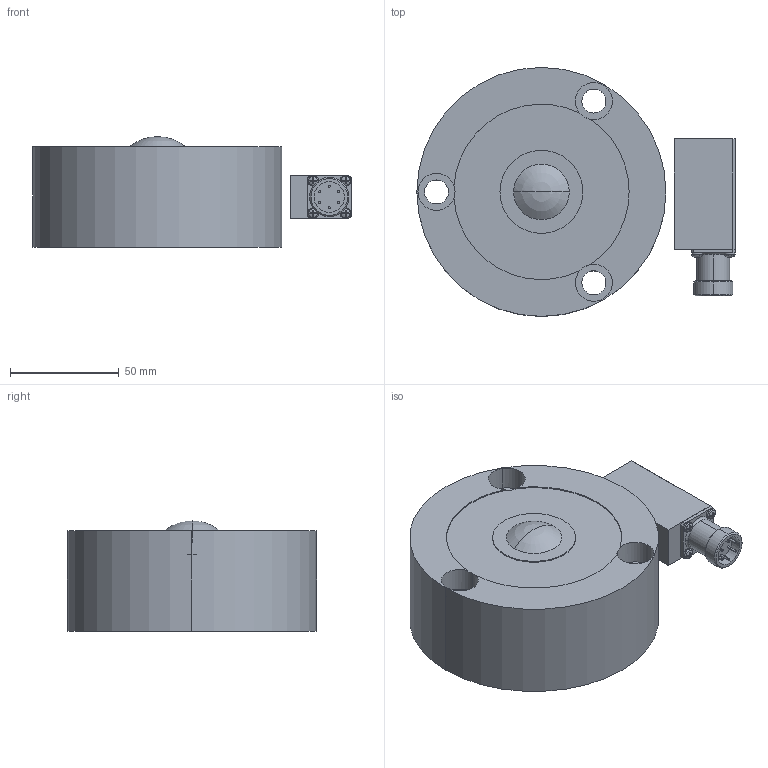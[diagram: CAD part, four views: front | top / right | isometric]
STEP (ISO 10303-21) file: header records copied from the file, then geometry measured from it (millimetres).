
FILE_DESCRIPTION(('STEP AP203'),'1');
FILE_NAME('C:/TPO v2/SharedFS/Outgoing/burster_85043-100_385uoudtntuzpr4diooxgnb0v.stp','2013-08-27T14:06:00',('TraceParts'),('TraceParts S.A.'),'XStep 1.0',' ',' ');
FILE_SCHEMA(('CONFIG_CONTROL_DESIGN'));
Length unit declared in the file: millimetre
Products named in the file (1): 1
Bounding box: 146.05 x 114.3 x 50.8 mm (x, y, z)
Volume: 475460.3 mm3; surface area: 50573.1 mm2
Topology: 2 solids, 2 shells, 164 faces, 402 edges, 254 vertices
Faces by surface type: plane 90, cylinder 42, torus 18, cone 12, sphere 2
Entity records: 5279 total; most frequent: CARTESIAN_POINT 1335, DIRECTION 839, ORIENTED_EDGE 800, EDGE_CURVE 400, AXIS2_PLACEMENT_3D 334, VERTEX_POINT 254, EDGE_LOOP 184, LINE 171
